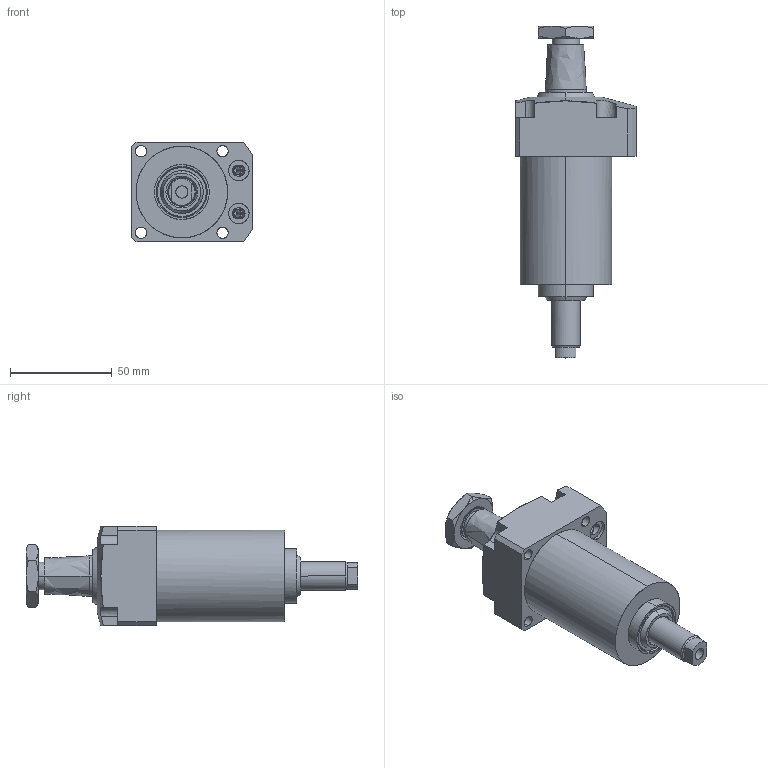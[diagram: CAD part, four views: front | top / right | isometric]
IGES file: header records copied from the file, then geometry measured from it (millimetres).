
Start section: Comment
Global section: file name: JF6H35-20D.igs; native system:  By Spatial Corp.; preprocessor: XPlus GENERIC/IGES 3.0; author: Author; organization: Title; date: 20080526.095726; units: millimetre
Bounding box: 59 x 163 x 49 mm (x, y, z)
Surface area: 48421.9 mm2 (no closed solid volume)
Topology: 0 solids, 0 shells, 251 faces, 1114 edges, 1106 vertices
Faces by surface type: bspline 251
